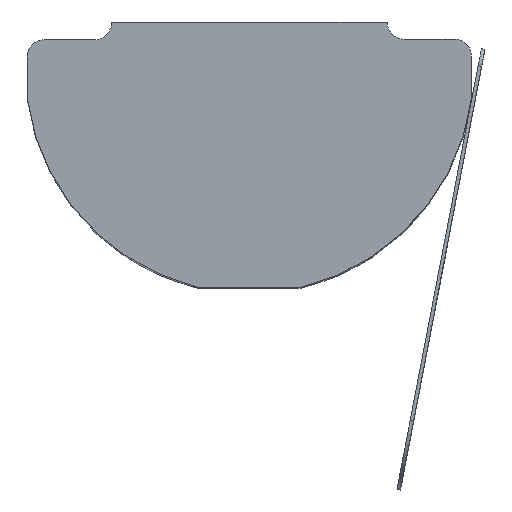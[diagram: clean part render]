
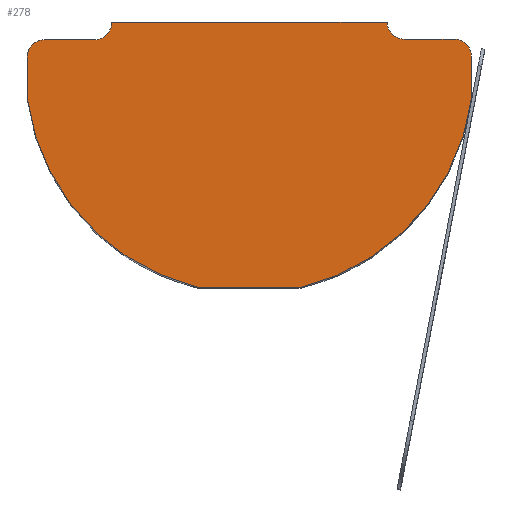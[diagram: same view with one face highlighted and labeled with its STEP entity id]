
A CAD part, top view. The second image highlights one B-rep face of the part: STEP entity #278.
In plain terms, the highlighted planar face has unit normal (0, 0, 1).
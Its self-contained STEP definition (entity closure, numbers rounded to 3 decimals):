
#12 = CARTESIAN_POINT ( 'NONE',  ( -2.708, -6.122, 12.182 ) ) ;
#23 = DIRECTION ( 'NONE',  ( 0., 0., 1. ) ) ;
#32 = VECTOR ( 'NONE', #615, 1000. ) ;
#35 = LINE ( 'NONE', #950, #32 ) ;
#40 = CARTESIAN_POINT ( 'NONE',  ( 3.292, 1.078, 12.182 ) ) ;
#66 = DIRECTION ( 'NONE',  ( 0., -1., 0. ) ) ;
#112 = CARTESIAN_POINT ( 'NONE',  ( 4.743, 0.578, 12.182 ) ) ;
#125 = DIRECTION ( 'NONE',  ( 1., 0., 0. ) ) ;
#170 = EDGE_CURVE ( 'NONE', #1428, #1207, #416, .T. ) ;
#174 = ORIENTED_EDGE ( 'NONE', *, *, #716, .T. ) ;
#175 = CARTESIAN_POINT ( 'NONE',  ( -7.662, -0.637, 12.182 ) ) ;
#182 = VECTOR ( 'NONE', #66, 1000. ) ;
#188 = EDGE_CURVE ( 'NONE', #1207, #895, #1120, .T. ) ;
#203 = ORIENTED_EDGE ( 'NONE', *, *, #170, .T. ) ;
#210 = VERTEX_POINT ( 'NONE', #1316 ) ;
#217 = DIRECTION ( 'NONE',  ( 0., 0., 1. ) ) ;
#229 = DIRECTION ( 'NONE',  ( 0., 0., -1. ) ) ;
#233 = DIRECTION ( 'NONE',  ( 1., 0., 0. ) ) ;
#234 = CARTESIAN_POINT ( 'NONE',  ( -1.208, 0.212, 12.182 ) ) ;
#238 = CARTESIAN_POINT ( 'NONE',  ( 2.792, 1.578, 12.182 ) ) ;
#258 = VERTEX_POINT ( 'NONE', #354 ) ;
#261 = CARTESIAN_POINT ( 'NONE',  ( 5.243, 0.578, 12.182 ) ) ;
#278 = ADVANCED_FACE ( 'NONE', ( #452 ), #1260, .T. ) ;
#280 = DIRECTION ( 'NONE',  ( 1., 0., 0. ) ) ;
#282 = ORIENTED_EDGE ( 'NONE', *, *, #743, .T. ) ;
#293 = EDGE_LOOP ( 'NONE', ( #868, #203, #765, #714, #680, #282, #759, #174, #343, #1118, #627, #1398, #1087 ) ) ;
#318 = DIRECTION ( 'NONE',  ( 1., 0., 0. ) ) ;
#326 = LINE ( 'NONE', #809, #1122 ) ;
#343 = ORIENTED_EDGE ( 'NONE', *, *, #1052, .T. ) ;
#348 = CARTESIAN_POINT ( 'NONE',  ( 5.243, -0.655, 12.182 ) ) ;
#350 = LINE ( 'NONE', #1369, #1075 ) ;
#354 = CARTESIAN_POINT ( 'NONE',  ( -5.208, 1.578, 12.182 ) ) ;
#364 = LINE ( 'NONE', #712, #982 ) ;
#386 = CARTESIAN_POINT ( 'NONE',  ( -7.662, 0.56, 12.182 ) ) ;
#400 = CARTESIAN_POINT ( 'NONE',  ( -7.662, -0.637, 12.182 ) ) ;
#414 = CIRCLE ( 'NONE', #1269, 0.5 ) ;
#416 = CIRCLE ( 'NONE', #753, 0.5 ) ;
#435 = VECTOR ( 'NONE', #457, 1000. ) ;
#444 = EDGE_CURVE ( 'NONE', #210, #1419, #1247, .T. ) ;
#452 = FACE_OUTER_BOUND ( 'NONE', #293, .T. ) ;
#453 = CARTESIAN_POINT ( 'NONE',  ( 0.292, -6.122, 12.182 ) ) ;
#457 = DIRECTION ( 'NONE',  ( 0., 1., 0. ) ) ;
#471 = DIRECTION ( 'NONE',  ( 1., 0., 0. ) ) ;
#552 = CIRCLE ( 'NONE', #1430, 6.509 ) ;
#554 = DIRECTION ( 'NONE',  ( 0., 0., 1. ) ) ;
#602 = DIRECTION ( 'NONE',  ( 1., 0., 0. ) ) ;
#615 = DIRECTION ( 'NONE',  ( -1., 0., 0. ) ) ;
#627 = ORIENTED_EDGE ( 'NONE', *, *, #1056, .T. ) ;
#653 = EDGE_CURVE ( 'NONE', #1443, #835, #1128, .T. ) ;
#663 = VERTEX_POINT ( 'NONE', #238 ) ;
#666 = CARTESIAN_POINT ( 'NONE',  ( -1.208, 0.212, 12.182 ) ) ;
#679 = AXIS2_PLACEMENT_3D ( 'NONE', #234, #217, #471 ) ;
#680 = ORIENTED_EDGE ( 'NONE', *, *, #1113, .T. ) ;
#682 = DIRECTION ( 'NONE',  ( -1., 0., 0. ) ) ;
#687 = CARTESIAN_POINT ( 'NONE',  ( -5.708, 1.06, 12.182 ) ) ;
#698 = EDGE_CURVE ( 'NONE', #895, #850, #552, .T. ) ;
#712 = CARTESIAN_POINT ( 'NONE',  ( -5.208, 1.578, 12.182 ) ) ;
#714 = ORIENTED_EDGE ( 'NONE', *, *, #698, .T. ) ;
#716 = EDGE_CURVE ( 'NONE', #835, #1352, #1406, .T. ) ;
#722 = AXIS2_PLACEMENT_3D ( 'NONE', #1464, #554, #125 ) ;
#730 = AXIS2_PLACEMENT_3D ( 'NONE', #742, #1169, #602 ) ;
#742 = CARTESIAN_POINT ( 'NONE',  ( -5.708, 1.56, 12.182 ) ) ;
#743 = EDGE_CURVE ( 'NONE', #1332, #1443, #981, .T. ) ;
#753 = AXIS2_PLACEMENT_3D ( 'NONE', #1084, #1297, #280 ) ;
#759 = ORIENTED_EDGE ( 'NONE', *, *, #653, .T. ) ;
#765 = ORIENTED_EDGE ( 'NONE', *, *, #188, .T. ) ;
#780 = CARTESIAN_POINT ( 'NONE',  ( 5.243, 1.078, 12.182 ) ) ;
#786 = DIRECTION ( 'NONE',  ( -1., 0., 0. ) ) ;
#809 = CARTESIAN_POINT ( 'NONE',  ( -5.208, 1.578, 12.182 ) ) ;
#834 = CARTESIAN_POINT ( 'NONE',  ( -2.708, -6.122, 12.182 ) ) ;
#835 = VERTEX_POINT ( 'NONE', #261 ) ;
#841 = EDGE_CURVE ( 'NONE', #1419, #1428, #35, .T. ) ;
#850 = VERTEX_POINT ( 'NONE', #834 ) ;
#862 = VECTOR ( 'NONE', #318, 1000. ) ;
#868 = ORIENTED_EDGE ( 'NONE', *, *, #841, .T. ) ;
#895 = VERTEX_POINT ( 'NONE', #175 ) ;
#916 = CARTESIAN_POINT ( 'NONE',  ( -7.162, 1.06, 12.182 ) ) ;
#922 = DIRECTION ( 'NONE',  ( 1., 0., 0. ) ) ;
#950 = CARTESIAN_POINT ( 'NONE',  ( -7.662, 1.06, 12.182 ) ) ;
#981 = CIRCLE ( 'NONE', #722, 6.509 ) ;
#982 = VECTOR ( 'NONE', #1279, 1000. ) ;
#1029 = LINE ( 'NONE', #12, #862 ) ;
#1052 = EDGE_CURVE ( 'NONE', #1352, #1175, #350, .T. ) ;
#1056 = EDGE_CURVE ( 'NONE', #663, #258, #326, .T. ) ;
#1075 = VECTOR ( 'NONE', #682, 1000. ) ;
#1084 = CARTESIAN_POINT ( 'NONE',  ( -7.162, 0.56, 12.182 ) ) ;
#1087 = ORIENTED_EDGE ( 'NONE', *, *, #444, .T. ) ;
#1098 = AXIS2_PLACEMENT_3D ( 'NONE', #112, #23, #922 ) ;
#1113 = EDGE_CURVE ( 'NONE', #850, #1332, #1029, .T. ) ;
#1114 = DIRECTION ( 'NONE',  ( 1., 0., 0. ) ) ;
#1118 = ORIENTED_EDGE ( 'NONE', *, *, #1378, .T. ) ;
#1119 = DIRECTION ( 'NONE',  ( 0., 0., 1. ) ) ;
#1120 = LINE ( 'NONE', #400, #182 ) ;
#1121 = CARTESIAN_POINT ( 'NONE',  ( 4.743, 1.078, 12.182 ) ) ;
#1122 = VECTOR ( 'NONE', #786, 1000. ) ;
#1128 = LINE ( 'NONE', #780, #435 ) ;
#1142 = EDGE_CURVE ( 'NONE', #258, #210, #364, .T. ) ;
#1169 = DIRECTION ( 'NONE',  ( 0., 0., -1. ) ) ;
#1175 = VERTEX_POINT ( 'NONE', #40 ) ;
#1207 = VERTEX_POINT ( 'NONE', #386 ) ;
#1247 = CIRCLE ( 'NONE', #730, 0.5 ) ;
#1260 = PLANE ( 'NONE',  #679 ) ;
#1269 = AXIS2_PLACEMENT_3D ( 'NONE', #1445, #229, #1114 ) ;
#1279 = DIRECTION ( 'NONE',  ( 0., -1., 0. ) ) ;
#1297 = DIRECTION ( 'NONE',  ( 0., 0., 1. ) ) ;
#1316 = CARTESIAN_POINT ( 'NONE',  ( -5.208, 1.56, 12.182 ) ) ;
#1332 = VERTEX_POINT ( 'NONE', #453 ) ;
#1352 = VERTEX_POINT ( 'NONE', #1121 ) ;
#1369 = CARTESIAN_POINT ( 'NONE',  ( 2.792, 1.078, 12.182 ) ) ;
#1378 = EDGE_CURVE ( 'NONE', #1175, #663, #414, .T. ) ;
#1398 = ORIENTED_EDGE ( 'NONE', *, *, #1142, .T. ) ;
#1406 = CIRCLE ( 'NONE', #1098, 0.5 ) ;
#1419 = VERTEX_POINT ( 'NONE', #687 ) ;
#1428 = VERTEX_POINT ( 'NONE', #916 ) ;
#1430 = AXIS2_PLACEMENT_3D ( 'NONE', #666, #1119, #233 ) ;
#1443 = VERTEX_POINT ( 'NONE', #348 ) ;
#1445 = CARTESIAN_POINT ( 'NONE',  ( 3.292, 1.578, 12.182 ) ) ;
#1464 = CARTESIAN_POINT ( 'NONE',  ( -1.208, 0.212, 12.182 ) ) ;
